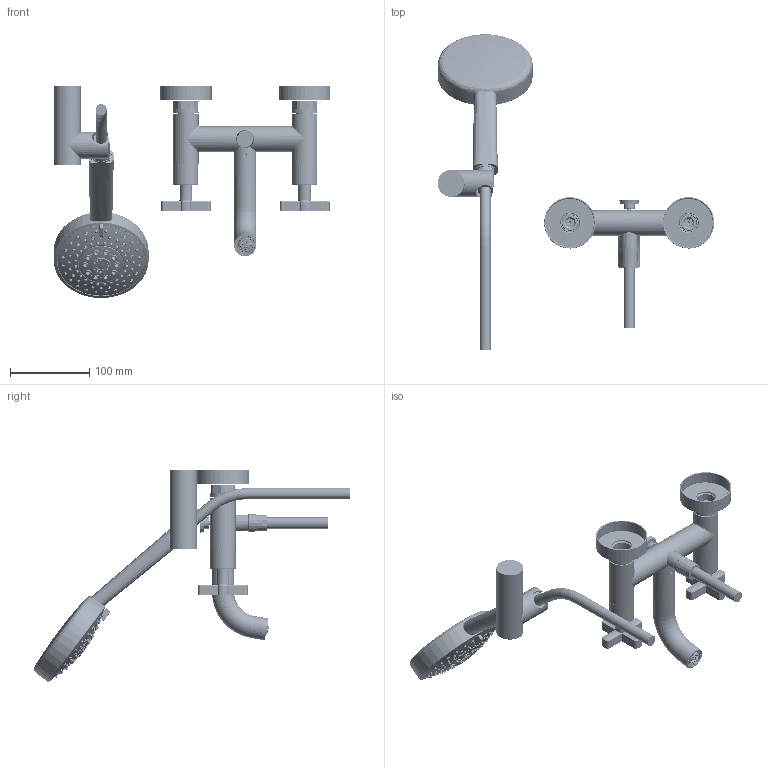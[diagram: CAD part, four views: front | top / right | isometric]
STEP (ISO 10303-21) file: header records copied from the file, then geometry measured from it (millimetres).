
FILE_DESCRIPTION (( 'STEP AP203' ), '1' );
FILE_NAME ('LIRA116210_---.STEP', '2017-07-27T11:28:52', ( '' ), ( '' ), 'SwSTEP 2.0', 'SolidWorks 2016', '' );
FILE_SCHEMA (( 'CONFIG_CONTROL_DESIGN' ));
Length unit declared in the file: millimetre
Products named in the file (47): aeratori_cache_coin_slot_M24x1; vela_116041; gancio_a_snodo_147_4; rosone_gruppo_vasca_106030; LIRA116210_---; capuccio_copri_vitone_monoforo_116004; grano_punta_M5x6_90010_000; maniglia_116003; ADOCC00142_128; corpo_gruppo_vasca_116038; COD_ZIGRINATO_flex_tipo_grigio; COD_CONICO_flex_tipo_grigio; assieme_maniglia_monoforo; COD_ZIGRINATO; calotta_116037; pomolo_37123_000; guarnizione 19x12x2_00919_4--_18.5x10.5x1.5; COD_CONICO; astina_37109_000; Parte1^Flex_G1-2_AFLEX00135_43; sede_00623_000; guarnizione 19x12x2_00919_4--; Flex_G1-2_AFLEX00135_43; niplex_deviazione_116039; assieme_eccentrici_vitone_maniglia; assieme_deviazione_completa_default
Assembly tree (26 placements, depth 4):
  gancio_a_snodo_147_4
  rosone_gruppo_vasca_106030
  LIRA116210_---
    corpo_gruppo_vasca_116038
    assieme_deviazione_completa_default
      pomolo_37123_000
      astina_37109_000
      niplex_deviazione_116039
    vela_116041
    assieme_eccentrici_vitone_maniglia
      assieme_maniglia_monoforo  x2
        maniglia_116003
        capuccio_copri_vitone_monoforo_116004
      calotta_116037  x2
      sede_00623_000  x2
      rosone_gruppo_vasca_106030  x2
    aeratori_cache_coin_slot_M24x1
    grano_punta_M5x6_90010_000
    Flex_G1-2_AFLEX00135_43
      COD_ZIGRINATO_flex_tipo_grigio
      COD_CONICO_flex_tipo_grigio
      guarnizione 19x12x2_00919_4--_18.5x10.5x1.5  x2
    gancio_a_snodo_147_4
    ADOCC00142_128
  capuccio_copri_vitone_monoforo_116004
  ADOCC00142_128
Bounding box: 349.5 x 398.81 x 267.95 mm (x, y, z)
Volume: 415237.4 mm3; surface area: 253537.9 mm2
Topology: 41 solids, 130 shells, 6528 faces, 18282 edges, 11990 vertices
Faces by surface type: plane 3652, bspline 1349, cylinder 1043, cone 366, torus 107, sphere 11
Entity records: 276583 total; most frequent: CARTESIAN_POINT 129902, ORIENTED_EDGE 34304, DIRECTION 21759, EDGE_CURVE 17550, VERTEX_POINT 11598, B_SPLINE_CURVE_WITH_KNOTS 8246, AXIS2_PLACEMENT_3D 7971, EDGE_LOOP 7376
